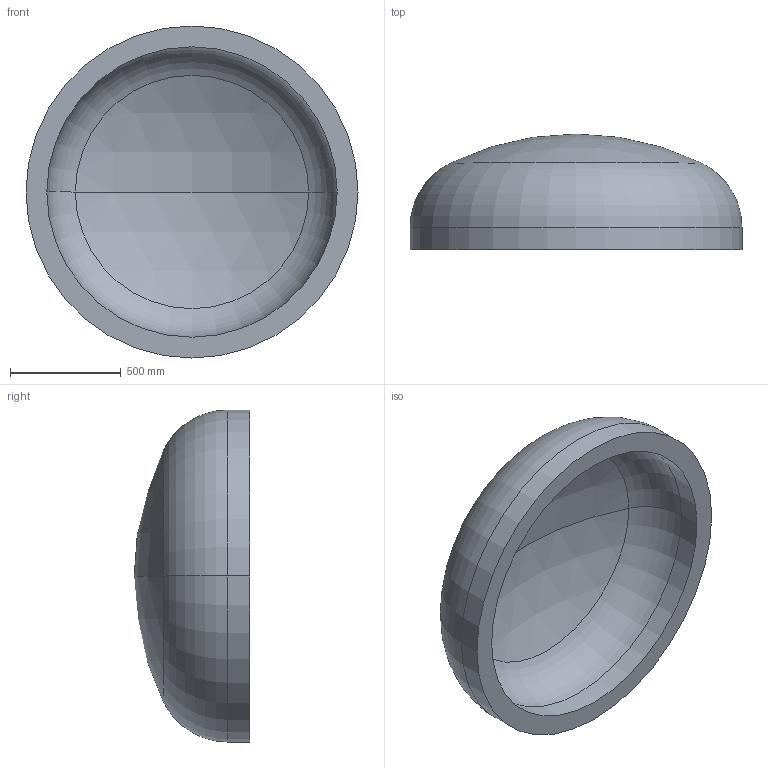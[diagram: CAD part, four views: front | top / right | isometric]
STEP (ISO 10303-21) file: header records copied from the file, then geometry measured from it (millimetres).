
FILE_DESCRIPTION (( 'STEP AP203' ), '1' );
FILE_NAME ('DIN 28013 Korbbogenform_-_Boden DIN 28013 - 1500 x 100 - I - s=94.step', '2016-07-01T10:56:59', ( '' ), ( '' ), 'SwSTEP 2.0', 'SolidWorks 2013', '' );
FILE_SCHEMA (( 'CONFIG_CONTROL_DESIGN' ));
Length unit declared in the file: millimetre
Products named in the file (1): DIN 28013 Korbbogenform_-_Boden DIN 28013 - 1500 x 100 - I - s=94
Bounding box: 1500 x 522.55 x 1500 mm (x, y, z)
Volume: 253765708.7 mm3; surface area: 5832980.7 mm2
Topology: 1 solids, 1 shells, 13 faces, 24 edges, 14 vertices
Faces by surface type: torus 4, cylinder 4, sphere 4, plane 1
Entity records: 407 total; most frequent: DIRECTION 72, CARTESIAN_POINT 52, ORIENTED_EDGE 48, AXIS2_PLACEMENT_3D 34, EDGE_CURVE 24, CIRCLE 20, VERTEX_POINT 14, EDGE_LOOP 14
